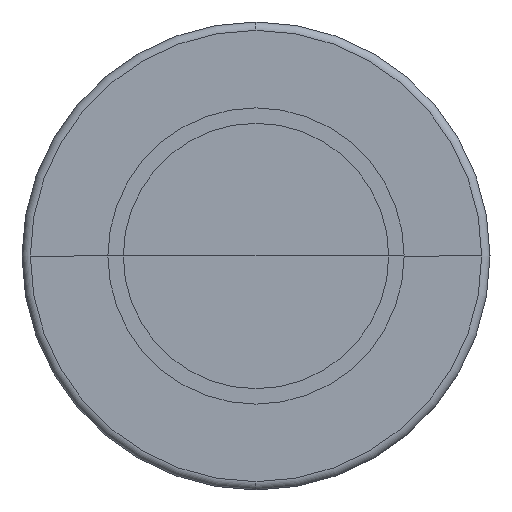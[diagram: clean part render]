
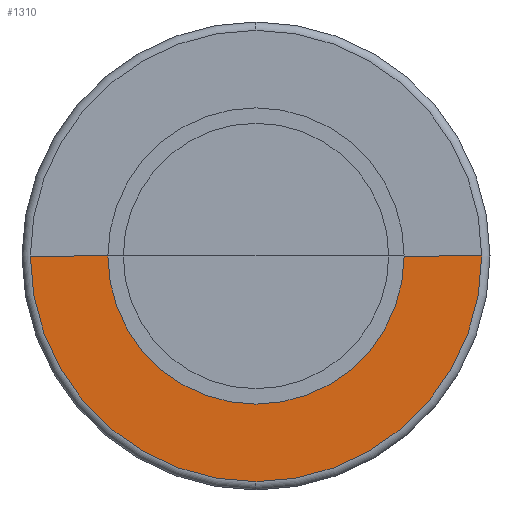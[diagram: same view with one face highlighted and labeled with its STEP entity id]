
A CAD part, left-side view. The second image highlights one B-rep face of the part: STEP entity #1310.
In plain terms, the highlighted planar face has unit normal (-1, 0, 0).
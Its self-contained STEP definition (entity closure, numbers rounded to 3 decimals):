
#5 = CIRCLE ( 'NONE', #898, 17.725 ) ;
#6 = VECTOR ( 'NONE', #1186, 1000. ) ;
#12 = CARTESIAN_POINT ( 'NONE',  ( -51.2, 17.725, 0. ) ) ;
#43 = CARTESIAN_POINT ( 'NONE',  ( -51.2, 0., 0. ) ) ;
#124 = EDGE_CURVE ( 'NONE', #397, #1248, #5, .T. ) ;
#164 = PLANE ( 'NONE',  #1404 ) ;
#216 = CARTESIAN_POINT ( 'NONE',  ( -51.2, 17.725, 0. ) ) ;
#226 = DIRECTION ( 'NONE',  ( 1., 0., 0. ) ) ;
#229 = CARTESIAN_POINT ( 'NONE',  ( -51.2, -27., 0. ) ) ;
#280 = EDGE_CURVE ( 'NONE', #1248, #1081, #1286, .T. ) ;
#312 = EDGE_CURVE ( 'NONE', #1081, #957, #1515, .T. ) ;
#317 = ORIENTED_EDGE ( 'NONE', *, *, #280, .T. ) ;
#397 = VERTEX_POINT ( 'NONE', #1508 ) ;
#401 = VERTEX_POINT ( 'NONE', #475 ) ;
#423 = EDGE_CURVE ( 'NONE', #401, #397, #951, .T. ) ;
#457 = CARTESIAN_POINT ( 'NONE',  ( -51.2, 0., 0. ) ) ;
#475 = CARTESIAN_POINT ( 'NONE',  ( -51.2, -27., 0. ) ) ;
#483 = DIRECTION ( 'NONE',  ( 0., -1., 0. ) ) ;
#514 = ORIENTED_EDGE ( 'NONE', *, *, #312, .T. ) ;
#565 = ORIENTED_EDGE ( 'NONE', *, *, #1240, .T. ) ;
#586 = DIRECTION ( 'NONE',  ( 0., -1., 0. ) ) ;
#609 = ORIENTED_EDGE ( 'NONE', *, *, #423, .T. ) ;
#618 = ORIENTED_EDGE ( 'NONE', *, *, #124, .T. ) ;
#632 = DIRECTION ( 'NONE',  ( 0., 1., 0. ) ) ;
#645 = EDGE_LOOP ( 'NONE', ( #317, #514, #565, #609, #618 ) ) ;
#702 = CIRCLE ( 'NONE', #1478, 27. ) ;
#734 = DIRECTION ( 'NONE',  ( -1., 0., 0. ) ) ;
#846 = DIRECTION ( 'NONE',  ( -1., 0., 0. ) ) ;
#853 = DIRECTION ( 'NONE',  ( 0., 1., 0. ) ) ;
#898 = AXIS2_PLACEMENT_3D ( 'NONE', #457, #226, #586 ) ;
#951 = LINE ( 'NONE', #229, #1493 ) ;
#957 = VERTEX_POINT ( 'NONE', #1436 ) ;
#971 = CARTESIAN_POINT ( 'NONE',  ( -51.2, 0., 0. ) ) ;
#1011 = DIRECTION ( 'NONE',  ( -1., 0., 0. ) ) ;
#1081 = VERTEX_POINT ( 'NONE', #1349 ) ;
#1113 = CARTESIAN_POINT ( 'NONE',  ( -51.2, 0., 0. ) ) ;
#1125 = FACE_OUTER_BOUND ( 'NONE', #645, .T. ) ;
#1143 = AXIS2_PLACEMENT_3D ( 'NONE', #971, #846, #483 ) ;
#1186 = DIRECTION ( 'NONE',  ( 0., 1., 0. ) ) ;
#1240 = EDGE_CURVE ( 'NONE', #957, #401, #702, .T. ) ;
#1248 = VERTEX_POINT ( 'NONE', #12 ) ;
#1286 = LINE ( 'NONE', #216, #6 ) ;
#1310 = ADVANCED_FACE ( 'NONE', ( #1125 ), #164, .T. ) ;
#1349 = CARTESIAN_POINT ( 'NONE',  ( -51.2, 27., 0. ) ) ;
#1404 = AXIS2_PLACEMENT_3D ( 'NONE', #43, #1011, #632 ) ;
#1436 = CARTESIAN_POINT ( 'NONE',  ( -51.2, 0., -27. ) ) ;
#1438 = DIRECTION ( 'NONE',  ( 0., -1., 0. ) ) ;
#1478 = AXIS2_PLACEMENT_3D ( 'NONE', #1113, #734, #1438 ) ;
#1493 = VECTOR ( 'NONE', #853, 1000. ) ;
#1508 = CARTESIAN_POINT ( 'NONE',  ( -51.2, -17.725, 0. ) ) ;
#1515 = CIRCLE ( 'NONE', #1143, 27. ) ;
